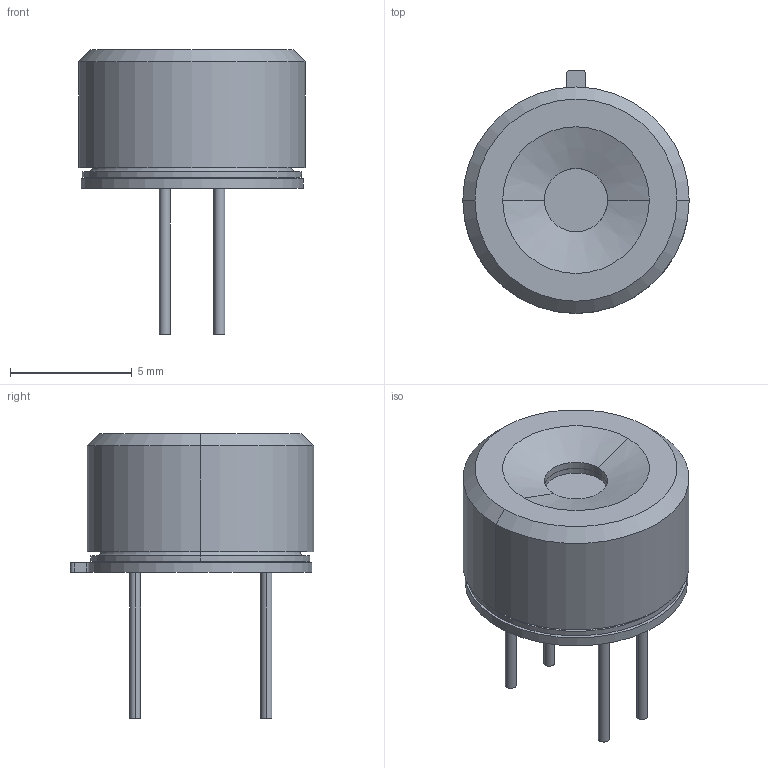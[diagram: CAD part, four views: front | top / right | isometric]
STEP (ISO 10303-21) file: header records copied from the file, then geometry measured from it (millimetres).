
FILE_DESCRIPTION((''),'2;1');
FILE_NAME('MLX90642BCA_ASM','2025-01-30T15:16:57',('aga'),(''),'CREO PARAMETRIC BY PTC INC, 2023294','CREO PARAMETRIC BY PTC INC, 2023294','');
FILE_SCHEMA(('AUTOMOTIVE_DESIGN { 1 0 10303 214 1 1 1 1 }'));
Length unit declared in the file: millimetre
Products named in the file (8): 9064X_BASE; GLASS_BEED; PIN_LONG; PIN_SHORT; TO39_CAP_BCA; LENS_WIDE_02; EA_BCA; MLX90642BCA_ASM
Assembly tree (11 placements, depth 2):
  MLX90642BCA_ASM
    9064X_BASE
    GLASS_BEED  x3
    PIN_LONG  x3
    PIN_SHORT
    TO39_CAP_BCA
    LENS_WIDE_02
    EA_BCA
Bounding box: 9.3 x 9.99 x 11.7 mm (x, y, z)
Volume: 242.2 mm3; surface area: 925.8 mm2
Topology: 11 solids, 11 shells, 140 faces, 286 edges, 171 vertices
Faces by surface type: cylinder 53, plane 35, torus 24, cone 14, revolution 12, sphere 2
Entity records: 4494 total; most frequent: DIRECTION 656, CARTESIAN_POINT 586, ORIENTED_EDGE 480, AXIS2_PLACEMENT_3D 285, EDGE_CURVE 240, CIRCLE 154, VERTEX_POINT 147, EDGE_LOOP 137
